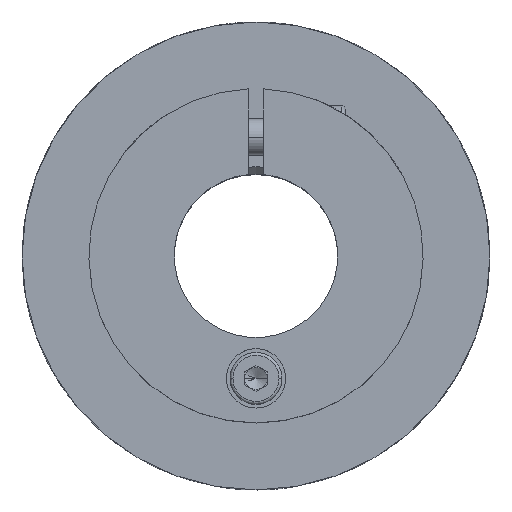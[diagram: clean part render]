
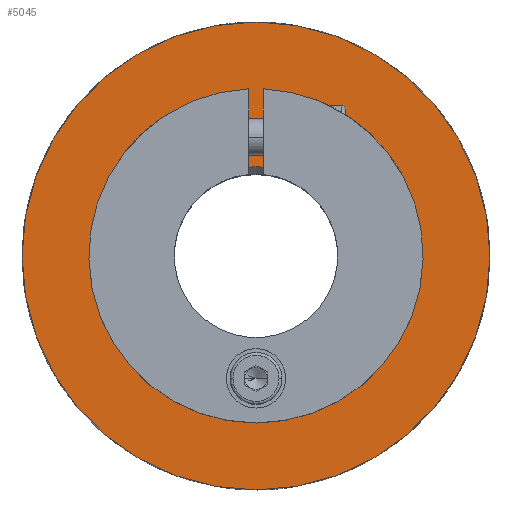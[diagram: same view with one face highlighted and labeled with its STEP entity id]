
A CAD part, top view. The second image highlights one B-rep face of the part: STEP entity #5045.
In plain terms, the highlighted planar face has unit normal (0, 0, 1).
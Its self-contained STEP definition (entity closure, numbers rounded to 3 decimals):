
#46 = EDGE_CURVE ( 'NONE', #2313, #3289, #3789, .T. ) ;
#510 = DIRECTION ( 'NONE',  ( 0., 0., 1. ) ) ;
#516 = CARTESIAN_POINT ( 'NONE',  ( -1.65, -16.5, 0. ) ) ;
#630 = ORIENTED_EDGE ( 'NONE', *, *, #2398, .F. ) ;
#705 = CARTESIAN_POINT ( 'NONE',  ( 0., 0., 0. ) ) ;
#721 = VERTEX_POINT ( 'NONE', #516 ) ;
#726 = CARTESIAN_POINT ( 'NONE',  ( 1.65, -16.5, 0. ) ) ;
#980 = CIRCLE ( 'NONE', #2120, 1.65 ) ;
#1049 = AXIS2_PLACEMENT_3D ( 'NONE', #4323, #2776, #1078 ) ;
#1061 = EDGE_LOOP ( 'NONE', ( #630, #4309 ) ) ;
#1078 = DIRECTION ( 'NONE',  ( 1., 0., 0. ) ) ;
#1157 = EDGE_CURVE ( 'NONE', #721, #1640, #4685, .T. ) ;
#1304 = AXIS2_PLACEMENT_3D ( 'NONE', #3548, #4372, #4689 ) ;
#1494 = AXIS2_PLACEMENT_3D ( 'NONE', #4744, #1984, #3124 ) ;
#1508 = PLANE ( 'NONE',  #2354 ) ;
#1529 = EDGE_LOOP ( 'NONE', ( #2193, #5194 ) ) ;
#1553 = ORIENTED_EDGE ( 'NONE', *, *, #1567, .F. ) ;
#1567 = EDGE_CURVE ( 'NONE', #3617, #4742, #3374, .T. ) ;
#1640 = VERTEX_POINT ( 'NONE', #726 ) ;
#1984 = DIRECTION ( 'NONE',  ( 0., 0., -1. ) ) ;
#2077 = CIRCLE ( 'NONE', #3936, 31.5 ) ;
#2120 = AXIS2_PLACEMENT_3D ( 'NONE', #4559, #510, #2175 ) ;
#2175 = DIRECTION ( 'NONE',  ( 1., 0., 0. ) ) ;
#2193 = ORIENTED_EDGE ( 'NONE', *, *, #4055, .F. ) ;
#2310 = DIRECTION ( 'NONE',  ( 1., 0., 0. ) ) ;
#2313 = VERTEX_POINT ( 'NONE', #2553 ) ;
#2350 = ORIENTED_EDGE ( 'NONE', *, *, #3667, .F. ) ;
#2354 = AXIS2_PLACEMENT_3D ( 'NONE', #2803, #4767, #4798 ) ;
#2398 = EDGE_CURVE ( 'NONE', #1640, #721, #980, .T. ) ;
#2553 = CARTESIAN_POINT ( 'NONE',  ( -31.5, 0., 0. ) ) ;
#2667 = CIRCLE ( 'NONE', #4234, 12.025 ) ;
#2776 = DIRECTION ( 'NONE',  ( 0., 0., 1. ) ) ;
#2803 = CARTESIAN_POINT ( 'NONE',  ( 0., 11.025, 0. ) ) ;
#2960 = EDGE_LOOP ( 'NONE', ( #2350, #1553 ) ) ;
#3124 = DIRECTION ( 'NONE',  ( 1., 0., 0. ) ) ;
#3151 = DIRECTION ( 'NONE',  ( 0., 0., -1. ) ) ;
#3203 = FACE_BOUND ( 'NONE', #1061, .T. ) ;
#3253 = CARTESIAN_POINT ( 'NONE',  ( -12.025, 0., 0. ) ) ;
#3289 = VERTEX_POINT ( 'NONE', #4379 ) ;
#3374 = CIRCLE ( 'NONE', #1049, 12.025 ) ;
#3460 = DIRECTION ( 'NONE',  ( 1., 0., 0. ) ) ;
#3548 = CARTESIAN_POINT ( 'NONE',  ( 0., -16.5, 0. ) ) ;
#3617 = VERTEX_POINT ( 'NONE', #3253 ) ;
#3667 = EDGE_CURVE ( 'NONE', #4742, #3617, #2667, .T. ) ;
#3789 = CIRCLE ( 'NONE', #1494, 31.5 ) ;
#3846 = DIRECTION ( 'NONE',  ( 0., 0., 1. ) ) ;
#3936 = AXIS2_PLACEMENT_3D ( 'NONE', #705, #3151, #2310 ) ;
#4055 = EDGE_CURVE ( 'NONE', #3289, #2313, #2077, .T. ) ;
#4234 = AXIS2_PLACEMENT_3D ( 'NONE', #4566, #3846, #3460 ) ;
#4309 = ORIENTED_EDGE ( 'NONE', *, *, #1157, .F. ) ;
#4323 = CARTESIAN_POINT ( 'NONE',  ( 0., 0., 0. ) ) ;
#4372 = DIRECTION ( 'NONE',  ( 0., 0., 1. ) ) ;
#4377 = CARTESIAN_POINT ( 'NONE',  ( 12.025, 0., 0. ) ) ;
#4379 = CARTESIAN_POINT ( 'NONE',  ( 31.5, 0., 0. ) ) ;
#4559 = CARTESIAN_POINT ( 'NONE',  ( 0., -16.5, 0. ) ) ;
#4566 = CARTESIAN_POINT ( 'NONE',  ( 0., 0., 0. ) ) ;
#4685 = CIRCLE ( 'NONE', #1304, 1.65 ) ;
#4688 = FACE_OUTER_BOUND ( 'NONE', #1529, .T. ) ;
#4689 = DIRECTION ( 'NONE',  ( 1., 0., 0. ) ) ;
#4742 = VERTEX_POINT ( 'NONE', #4377 ) ;
#4744 = CARTESIAN_POINT ( 'NONE',  ( 0., 0., 0. ) ) ;
#4767 = DIRECTION ( 'NONE',  ( 0., 0., -1. ) ) ;
#4798 = DIRECTION ( 'NONE',  ( -1., 0., 0. ) ) ;
#5045 = ADVANCED_FACE ( 'NONE', ( #4688, #5189, #3203 ), #1508, .F. ) ;
#5189 = FACE_BOUND ( 'NONE', #2960, .T. ) ;
#5194 = ORIENTED_EDGE ( 'NONE', *, *, #46, .F. ) ;
